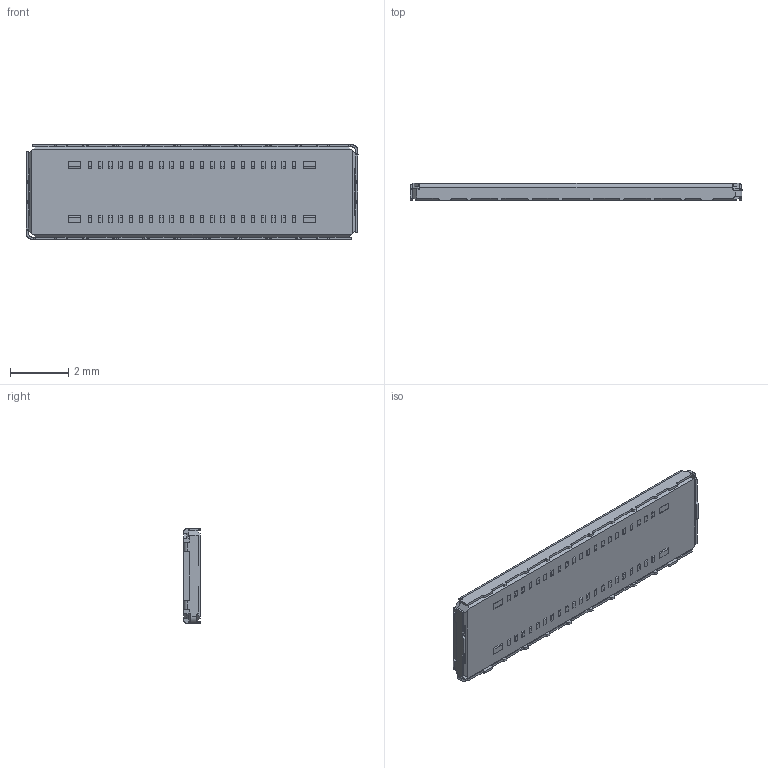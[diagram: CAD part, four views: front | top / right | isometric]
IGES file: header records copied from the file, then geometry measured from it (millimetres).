
Start section: SolidWorks IGES file using analytic representation for surfaces
Bounding box: 11.4 x 0.58 x 3.26 mm (x, y, z)
Surface area: 107.8 mm2 (no closed solid volume)
Topology: 0 solids, 0 shells, 526 faces, 3146 edges, 3146 vertices
Faces by surface type: bspline 350, revolution 176
